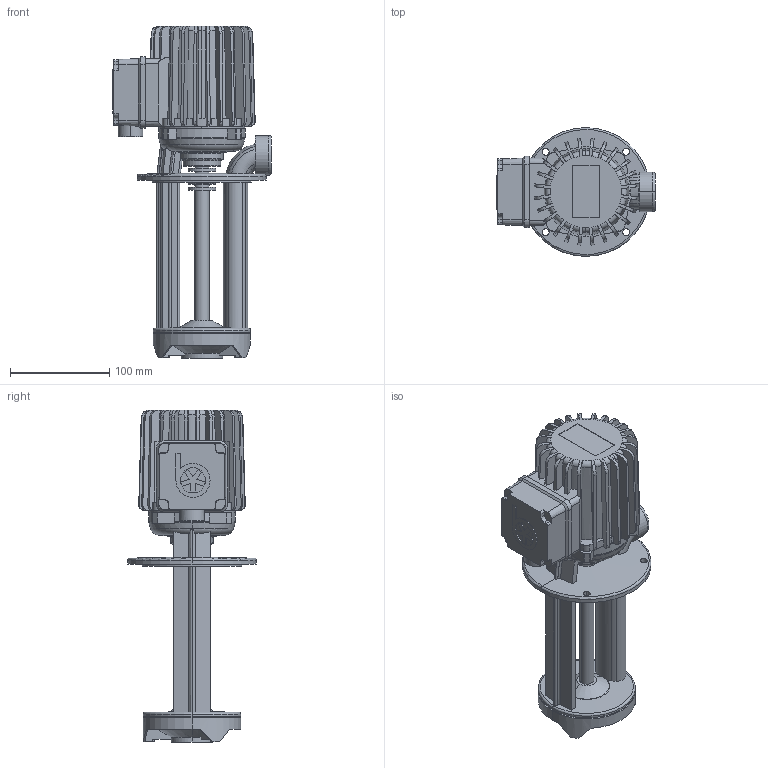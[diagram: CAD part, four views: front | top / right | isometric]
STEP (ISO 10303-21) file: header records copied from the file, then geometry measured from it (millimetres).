
FILE_DESCRIPTION(('no description'),'unknown implementation level');
FILE_NAME('TB100_170_3.stp',' ',('K. H. Brinkmann GmbH & Co. KG'),('CADClick - KiM GmbH - www.kimweb.de'),'unknown preprocess','ACIS','unknown authorization');
FILE_SCHEMA(('automotive_design'));
Length unit declared in the file: millimetre
Products named in the file (3): 1; 2; 3
Bounding box: 160 x 130 x 335 mm (x, y, z)
Volume: 1527948.7 mm3; surface area: 233279.3 mm2
Topology: 3 solids, 3 shells, 558 faces, 1551 edges, 1016 vertices
Faces by surface type: plane 251, cylinder 177, torus 67, cone 63
Entity records: 38590 total; most frequent: CARTESIAN_POINT 6926, STYLED_ITEM 3128, PRESENTATION_STYLE_ASSIGNMENT 3128, COLOUR_RGB 3128, ORIENTED_EDGE 3102, DIRECTION 2996, EDGE_CURVE 1551, CURVE_STYLE 1551
